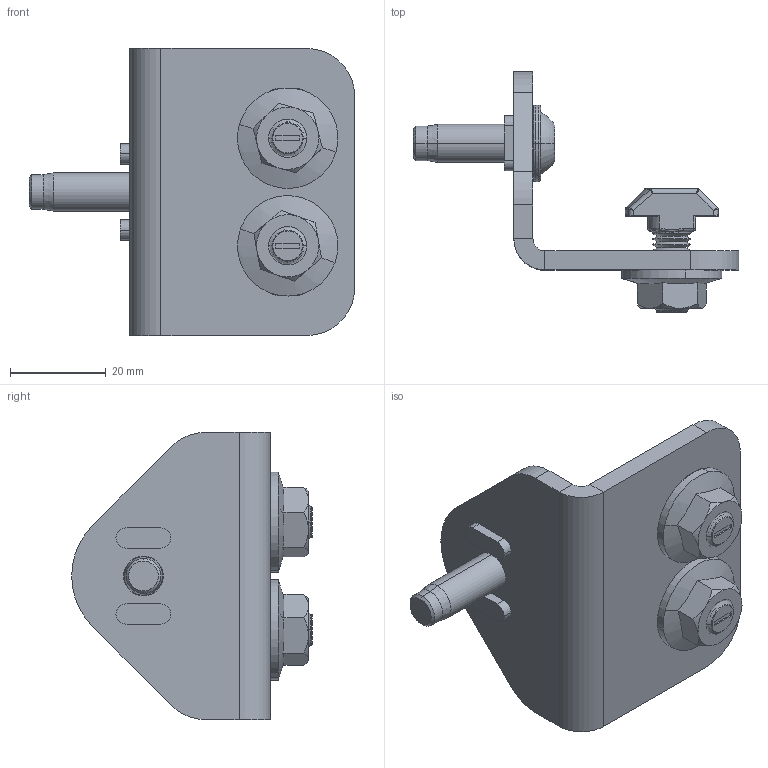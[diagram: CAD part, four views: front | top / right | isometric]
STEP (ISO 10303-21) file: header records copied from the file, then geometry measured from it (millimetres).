
FILE_DESCRIPTION(('STEP AP214'),'1');
FILE_NAME('C:/TPO v2/SharedFS/Outgoing/fath_099rv28tws01.stp','2016-05-30T08:13:17',('TraceParts'),('TraceParts S.A.'),'Spatial InterOp 3D',' ',' ');
FILE_SCHEMA(('automotive_design'));
Length unit declared in the file: millimetre
Products named in the file (6): 099rv28tws01|NAUO1#099RV28TWR01 - 127028_Standard;Sketched Bend1; 099rv28tws01|NAUO2#340me154_340me154;M8 Gewindebohrung1; 099rv28tws01|NAUO3#340me154_340me154;M8 Gewindebohrung1; 099rv28tws01|NAUO4#093s0825t_093 s08 25 t;Schnitt-Rotation1; 099rv28tws01|NAUO5#096hk1030m0820_096 hk 10 30 m08 20;LPattern1; 099rv28tws01|NAUO6#096hk1030m0820_096 hk 10 30 m08 20;LPattern1
Bounding box: 68.01 x 50.3 x 60 mm (x, y, z)
Volume: 23383.4 mm3; surface area: 15850.1 mm2
Topology: 6 solids, 6 shells, 654 faces, 1649 edges, 996 vertices
Faces by surface type: plane 244, cylinder 188, cone 142, bspline 48, torus 28, sphere 4
Entity records: 27203 total; most frequent: CARTESIAN_POINT 7013, ORIENTED_EDGE 3258, DIRECTION 2979, EDGE_CURVE 1629, AXIS2_PLACEMENT_3D 1142, VERTEX_POINT 996, LINE 695, VECTOR 695
